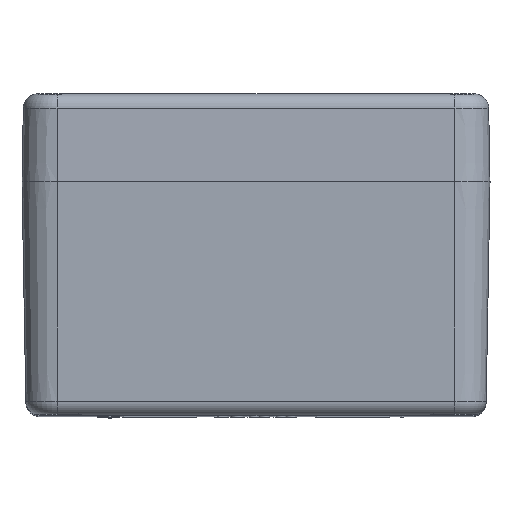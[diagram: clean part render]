
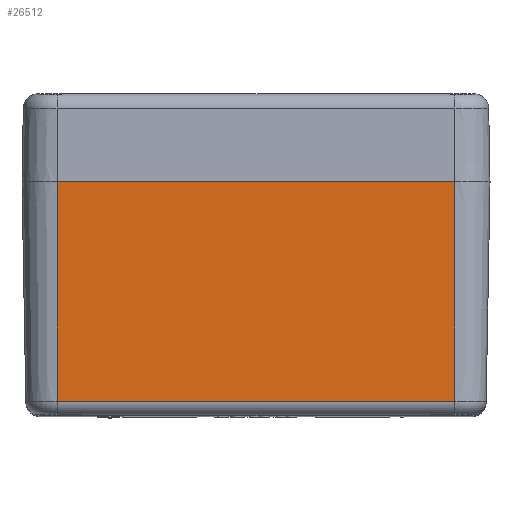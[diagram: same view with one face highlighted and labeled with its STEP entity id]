
A CAD part, top view. The second image highlights one B-rep face of the part: STEP entity #26512.
In plain terms, the highlighted planar face has unit normal (0, -0.018, 1).
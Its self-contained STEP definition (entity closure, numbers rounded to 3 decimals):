
#287 = DIRECTION ( 'NONE',  ( 1., 0., 0. ) ) ;
#405 = VECTOR ( 'NONE', #287, 1000. ) ;
#776 = ORIENTED_EDGE ( 'NONE', *, *, #19696, .T. ) ;
#1108 = VECTOR ( 'NONE', #11634, 1000. ) ;
#2204 = VERTEX_POINT ( 'NONE', #13066 ) ;
#2315 = CARTESIAN_POINT ( 'NONE',  ( -34., 0., 60. ) ) ;
#2587 = DIRECTION ( 'NONE',  ( 1., 0., 0. ) ) ;
#4417 = DIRECTION ( 'NONE',  ( 0., 1., 0.017 ) ) ;
#4648 = PLANE ( 'NONE',  #14691 ) ;
#6963 = DIRECTION ( 'NONE',  ( 0., -0.017, 1. ) ) ;
#9416 = CARTESIAN_POINT ( 'NONE',  ( -34., 0., 60. ) ) ;
#10089 = VECTOR ( 'NONE', #4417, 1000. ) ;
#10767 = LINE ( 'NONE', #22470, #10089 ) ;
#11634 = DIRECTION ( 'NONE',  ( 0., 1., 0.017 ) ) ;
#11860 = VERTEX_POINT ( 'NONE', #13880 ) ;
#12064 = FACE_OUTER_BOUND ( 'NONE', #28094, .T. ) ;
#12463 = ORIENTED_EDGE ( 'NONE', *, *, #19694, .F. ) ;
#12496 = LINE ( 'NONE', #25068, #405 ) ;
#13066 = CARTESIAN_POINT ( 'NONE',  ( 34., 0., 60. ) ) ;
#13880 = CARTESIAN_POINT ( 'NONE',  ( -34., -37.544, 59.345 ) ) ;
#14691 = AXIS2_PLACEMENT_3D ( 'NONE', #2315, #6963, #22691 ) ;
#14773 = CARTESIAN_POINT ( 'NONE',  ( 34., -37.544, 59.345 ) ) ;
#15731 = EDGE_CURVE ( 'NONE', #16022, #2204, #22154, .T. ) ;
#16022 = VERTEX_POINT ( 'NONE', #17710 ) ;
#16141 = CARTESIAN_POINT ( 'NONE',  ( -34., 0., 60. ) ) ;
#16156 = VECTOR ( 'NONE', #2587, 1000. ) ;
#17710 = CARTESIAN_POINT ( 'NONE',  ( -34., 0., 60. ) ) ;
#18514 = LINE ( 'NONE', #9416, #1108 ) ;
#19551 = EDGE_CURVE ( 'NONE', #25344, #2204, #10767, .T. ) ;
#19694 = EDGE_CURVE ( 'NONE', #11860, #16022, #18514, .T. ) ;
#19696 = EDGE_CURVE ( 'NONE', #11860, #25344, #12496, .T. ) ;
#20314 = ORIENTED_EDGE ( 'NONE', *, *, #19551, .T. ) ;
#22154 = LINE ( 'NONE', #16141, #16156 ) ;
#22470 = CARTESIAN_POINT ( 'NONE',  ( 34., 0., 60. ) ) ;
#22691 = DIRECTION ( 'NONE',  ( 0., -1., -0.017 ) ) ;
#25068 = CARTESIAN_POINT ( 'NONE',  ( 34., -37.544, 59.345 ) ) ;
#25344 = VERTEX_POINT ( 'NONE', #14773 ) ;
#25966 = ORIENTED_EDGE ( 'NONE', *, *, #15731, .F. ) ;
#26512 = ADVANCED_FACE ( 'NONE', ( #12064 ), #4648, .T. ) ;
#28094 = EDGE_LOOP ( 'NONE', ( #12463, #776, #20314, #25966 ) ) ;
